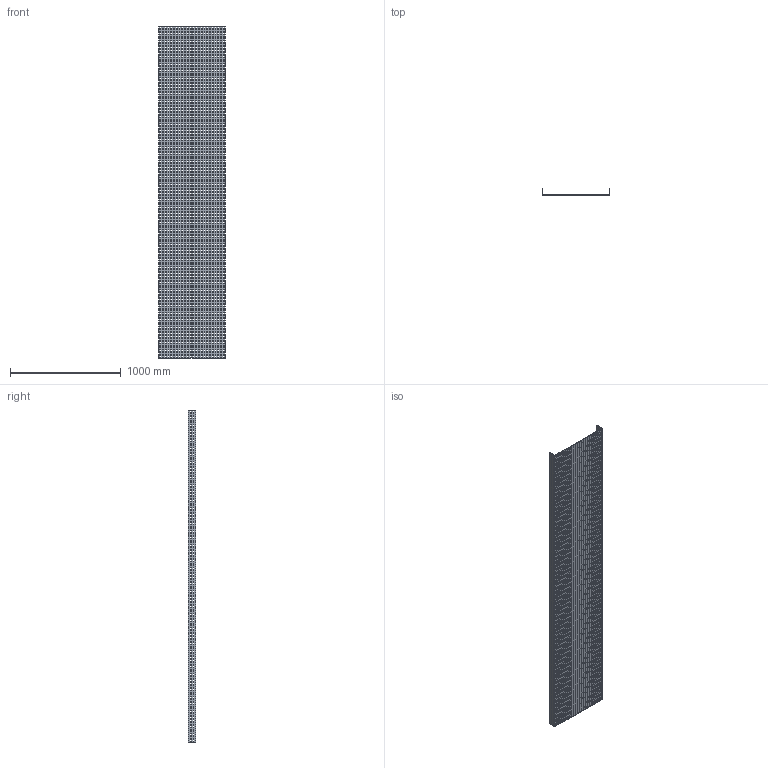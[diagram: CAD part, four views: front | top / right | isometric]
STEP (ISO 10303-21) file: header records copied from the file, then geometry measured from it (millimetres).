
FILE_DESCRIPTION (( 'STEP AP214' ), '1' );
FILE_NAME ('01B3H600.step', '2025-02-21T10:17:50', ( '' ), ( '' ), 'SwSTEP 2.0', 'SolidWorks 2023', '' );
FILE_SCHEMA (( 'AUTOMOTIVE_DESIGN' ));
Length unit declared in the file: millimetre
Products named in the file (1): 01B3H600
Bounding box: 604 x 65.5 x 3000 mm (x, y, z)
Volume: 6409200 mm3; surface area: 4140080 mm2
Topology: 1 solids, 1 shells, 8074 faces, 24216 edges, 16144 vertices
Faces by surface type: plane 8074
Entity records: 274487 total; most frequent: CARTESIAN_POINT 48435, ORIENTED_EDGE 48432, DIRECTION 40366, EDGE_CURVE 24216, LINE 24216, VECTOR 24216, VERTEX_POINT 16144, EDGE_LOOP 12106
